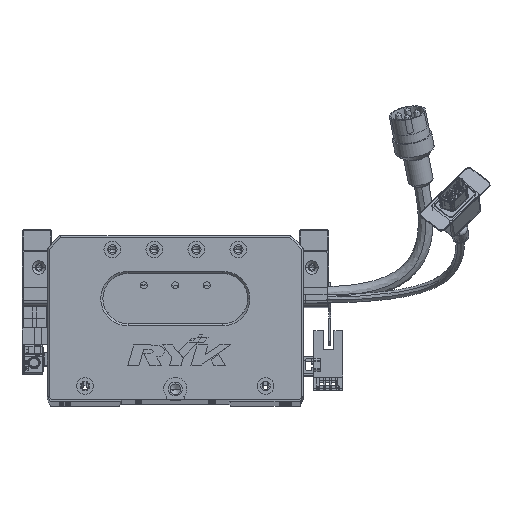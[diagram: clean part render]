
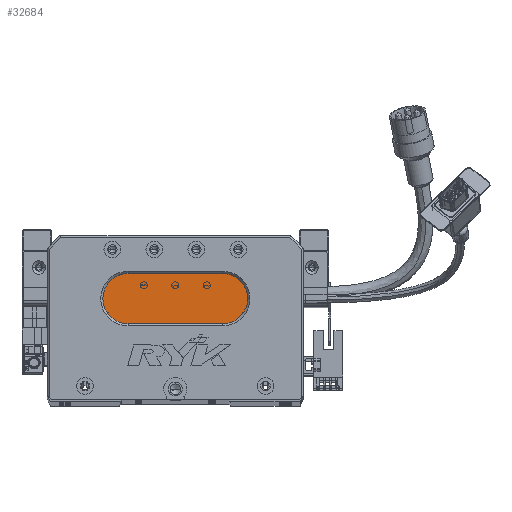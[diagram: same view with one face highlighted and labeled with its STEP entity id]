
A CAD part, top view. The second image highlights one B-rep face of the part: STEP entity #32684.
In plain terms, the highlighted planar face has unit normal (0, 0, 1) as drawn and (0, 0, -1) by its records, which use the part's own axes.
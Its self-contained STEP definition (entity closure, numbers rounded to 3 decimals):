
#1120 = VECTOR ( 'NONE', #14283, 1000. ) ;
#3368 = ORIENTED_EDGE ( 'NONE', *, *, #76038, .T. ) ;
#5979 = ORIENTED_EDGE ( 'NONE', *, *, #87175, .T. ) ;
#6230 = EDGE_CURVE ( 'NONE', #42221, #67646, #25200, .T. ) ;
#11856 = CIRCLE ( 'NONE', #37412, 12. ) ;
#14012 = EDGE_LOOP ( 'NONE', ( #41267, #3368, #54518, #65211, #5979 ) ) ;
#14283 = DIRECTION ( 'NONE',  ( -1., 0., 0. ) ) ;
#20279 = CARTESIAN_POINT ( 'NONE',  ( 38.5, 48., 13. ) ) ;
#24194 = DIRECTION ( 'NONE',  ( -1., 0., 0. ) ) ;
#25200 = CIRCLE ( 'NONE', #46131, 12. ) ;
#27190 = CARTESIAN_POINT ( 'NONE',  ( 83.5, 60., 13. ) ) ;
#29311 = AXIS2_PLACEMENT_3D ( 'NONE', #72999, #87110, #80231 ) ;
#29899 = PLANE ( 'NONE',  #31509 ) ;
#30736 = CIRCLE ( 'NONE', #29311, 12. ) ;
#31509 = AXIS2_PLACEMENT_3D ( 'NONE', #37087, #58411, #43971 ) ;
#32684 = ADVANCED_FACE ( 'NONE', ( #35153 ), #29899, .T. ) ;
#33815 = DIRECTION ( 'NONE',  ( 0., 0., -1. ) ) ;
#35153 = FACE_OUTER_BOUND ( 'NONE', #14012, .T. ) ;
#35711 = LINE ( 'NONE', #47175, #77563 ) ;
#37087 = CARTESIAN_POINT ( 'NONE',  ( 83.5, 48., 13. ) ) ;
#37412 = AXIS2_PLACEMENT_3D ( 'NONE', #52155, #79439, #24194 ) ;
#41267 = ORIENTED_EDGE ( 'NONE', *, *, #80030, .T. ) ;
#41283 = DIRECTION ( 'NONE',  ( -1., 0., 0. ) ) ;
#41959 = VERTEX_POINT ( 'NONE', #27190 ) ;
#42221 = VERTEX_POINT ( 'NONE', #79084 ) ;
#43971 = DIRECTION ( 'NONE',  ( -1., 0., 0. ) ) ;
#46131 = AXIS2_PLACEMENT_3D ( 'NONE', #20279, #33815, #41283 ) ;
#47175 = CARTESIAN_POINT ( 'NONE',  ( 83.5, 60., 13. ) ) ;
#47652 = VERTEX_POINT ( 'NONE', #61773 ) ;
#52155 = CARTESIAN_POINT ( 'NONE',  ( 38.5, 48., 13. ) ) ;
#54518 = ORIENTED_EDGE ( 'NONE', *, *, #6230, .T. ) ;
#58411 = DIRECTION ( 'NONE',  ( 0., 0., -1. ) ) ;
#60292 = LINE ( 'NONE', #68368, #1120 ) ;
#60878 = CARTESIAN_POINT ( 'NONE',  ( 38.5, 60., 13. ) ) ;
#61773 = CARTESIAN_POINT ( 'NONE',  ( 83.5, 36., 13. ) ) ;
#62183 = CARTESIAN_POINT ( 'NONE',  ( 26.5, 48., 13. ) ) ;
#65211 = ORIENTED_EDGE ( 'NONE', *, *, #72375, .T. ) ;
#67646 = VERTEX_POINT ( 'NONE', #62183 ) ;
#68368 = CARTESIAN_POINT ( 'NONE',  ( 83.5, 36., 13. ) ) ;
#72375 = EDGE_CURVE ( 'NONE', #67646, #75881, #11856, .T. ) ;
#72999 = CARTESIAN_POINT ( 'NONE',  ( 83.5, 48., 13. ) ) ;
#74994 = DIRECTION ( 'NONE',  ( 1., 0., 0. ) ) ;
#75881 = VERTEX_POINT ( 'NONE', #60878 ) ;
#76038 = EDGE_CURVE ( 'NONE', #47652, #42221, #60292, .T. ) ;
#77563 = VECTOR ( 'NONE', #74994, 1000. ) ;
#79084 = CARTESIAN_POINT ( 'NONE',  ( 38.5, 36., 13. ) ) ;
#79439 = DIRECTION ( 'NONE',  ( 0., 0., -1. ) ) ;
#80030 = EDGE_CURVE ( 'NONE', #41959, #47652, #30736, .T. ) ;
#80231 = DIRECTION ( 'NONE',  ( -1., 0., 0. ) ) ;
#87110 = DIRECTION ( 'NONE',  ( 0., 0., -1. ) ) ;
#87175 = EDGE_CURVE ( 'NONE', #75881, #41959, #35711, .T. ) ;
